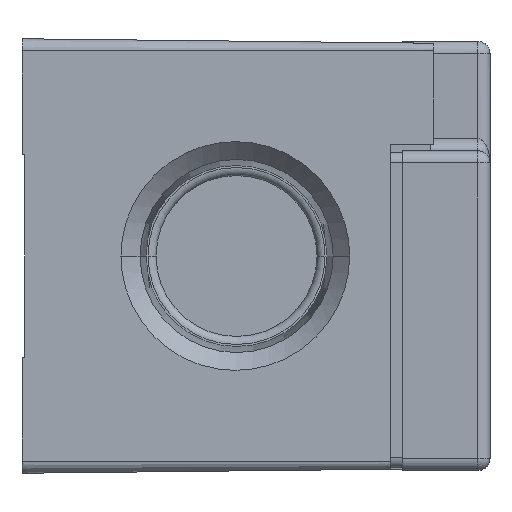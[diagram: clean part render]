
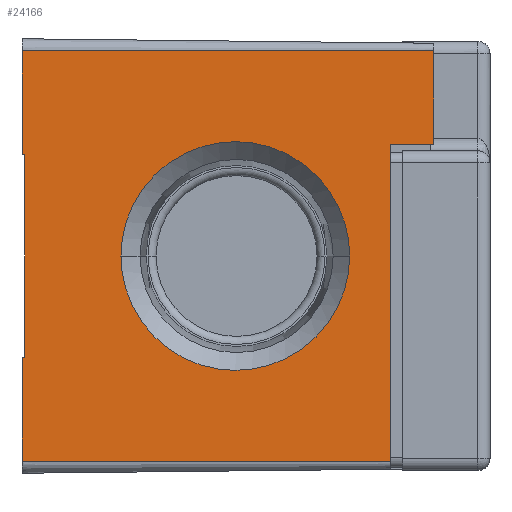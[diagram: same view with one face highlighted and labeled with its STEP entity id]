
A CAD part, front view. The second image highlights one B-rep face of the part: STEP entity #24166.
In plain terms, the highlighted planar face has unit normal (0.011, -1, 0).
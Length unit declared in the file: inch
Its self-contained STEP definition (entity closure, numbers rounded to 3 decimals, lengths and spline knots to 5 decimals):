
#19137=DIRECTION('',(0.,0.,1.));
#19138=VECTOR('',#19137,1.182);
#19139=CARTESIAN_POINT('',(0.53,-3.18912,-0.765));
#19140=LINE('',#19139,#19138);
#19537=DIRECTION('',(0.,0.,1.));
#19538=VECTOR('',#19537,0.756);
#19539=CARTESIAN_POINT('',(-0.835,-3.20389,-0.378));
#19540=LINE('',#19539,#19538);
#19541=DIRECTION('',(1.,0.011,0.));
#19542=VECTOR('',#19541,0.01);
#19543=CARTESIAN_POINT('',(-0.845,-3.204,0.378));
#19544=LINE('',#19543,#19542);
#19545=DIRECTION('',(0.,0.,1.));
#19546=VECTOR('',#19545,0.387);
#19547=CARTESIAN_POINT('',(-0.845,-3.204,0.378));
#19548=LINE('',#19547,#19546);
#19549=DIRECTION('',(0.,0.,1.));
#19550=VECTOR('',#19549,0.348);
#19551=CARTESIAN_POINT('',(0.69,-3.18739,0.417));
#19552=LINE('',#19551,#19550);
#19553=DIRECTION('',(-1.,-0.011,0.));
#19554=VECTOR('',#19553,0.16001);
#19555=CARTESIAN_POINT('',(0.69,-3.18739,0.417));
#19556=LINE('',#19555,#19554);
#19557=DIRECTION('',(0.,0.,1.));
#19558=VECTOR('',#19557,0.387);
#19559=CARTESIAN_POINT('',(-0.845,-3.204,-0.765));
#19560=LINE('',#19559,#19558);
#19561=DIRECTION('',(1.,0.011,0.));
#19562=VECTOR('',#19561,0.01);
#19563=CARTESIAN_POINT('',(-0.845,-3.204,-0.378));
#19564=LINE('',#19563,#19562);
#19565=CARTESIAN_POINT('',(0.37678,-3.19078,0.));
#19566=CARTESIAN_POINT('',(0.37678,-3.19078,
-0.02512));
#19567=CARTESIAN_POINT('',(0.37232,-3.19083,
-0.07725));
#19568=CARTESIAN_POINT('',(0.34969,-3.19107,
-0.15743));
#19569=CARTESIAN_POINT('',(0.30997,-3.1915,
-0.23469));
#19570=CARTESIAN_POINT('',(0.25407,-3.19211,
-0.30367));
#19571=CARTESIAN_POINT('',(0.19659,-3.19273,
-0.35024));
#19572=CARTESIAN_POINT('',(0.14646,-3.19327,
-0.37943));
#19573=CARTESIAN_POINT('',(0.10746,-3.19369,
-0.39714));
#19574=CARTESIAN_POINT('',(0.06773,-3.19412,
-0.4106));
#19575=CARTESIAN_POINT('',(0.03453,-3.19448,
-0.41836));
#19576=CARTESIAN_POINT('',(0.00822,-3.19477,
-0.42258));
#19577=CARTESIAN_POINT('',(-0.01134,-3.19498,
-0.4248));
#19578=CARTESIAN_POINT('',(-0.02743,-3.19515,
-0.42587));
#19579=CARTESIAN_POINT('',(-0.04017,-3.19529,
-0.4263));
#19580=CARTESIAN_POINT('',(-0.04961,-3.19539,
-0.4264));
#19581=CARTESIAN_POINT('',(-0.05906,-3.19549,
-0.4263));
#19582=CARTESIAN_POINT('',(-0.07179,-3.19563,
-0.42587));
#19583=CARTESIAN_POINT('',(-0.08789,-3.19581,
-0.4248));
#19584=CARTESIAN_POINT('',(-0.10744,-3.19602,
-0.42258));
#19585=CARTESIAN_POINT('',(-0.13376,-3.1963,
-0.41836));
#19586=CARTESIAN_POINT('',(-0.16696,-3.19666,
-0.4106));
#19587=CARTESIAN_POINT('',(-0.20669,-3.19709,
-0.39714));
#19588=CARTESIAN_POINT('',(-0.24569,-3.19751,
-0.37943));
#19589=CARTESIAN_POINT('',(-0.29582,-3.19806,
-0.35024));
#19590=CARTESIAN_POINT('',(-0.3533,-3.19868,
-0.30367));
#19591=CARTESIAN_POINT('',(-0.4092,-3.19928,
-0.23469));
#19592=CARTESIAN_POINT('',(-0.44892,-3.19971,
-0.15743));
#19593=CARTESIAN_POINT('',(-0.47154,-3.19996,
-0.07725));
#19594=CARTESIAN_POINT('',(-0.47601,-3.20001,
-0.02512));
#19595=CARTESIAN_POINT('',(-0.47601,-3.20001,0.));
#19597=CARTESIAN_POINT('',(-0.47601,-3.20001,0.));
#19598=CARTESIAN_POINT('',(-0.47601,-3.20001,
0.02512));
#19599=CARTESIAN_POINT('',(-0.47154,-3.19996,
0.07725));
#19600=CARTESIAN_POINT('',(-0.44892,-3.19971,
0.15743));
#19601=CARTESIAN_POINT('',(-0.4092,-3.19928,
0.23469));
#19602=CARTESIAN_POINT('',(-0.3533,-3.19868,
0.30367));
#19603=CARTESIAN_POINT('',(-0.29582,-3.19806,
0.35024));
#19604=CARTESIAN_POINT('',(-0.24569,-3.19751,
0.37943));
#19605=CARTESIAN_POINT('',(-0.20669,-3.19709,
0.39714));
#19606=CARTESIAN_POINT('',(-0.16696,-3.19666,
0.4106));
#19607=CARTESIAN_POINT('',(-0.13376,-3.1963,
0.41836));
#19608=CARTESIAN_POINT('',(-0.10744,-3.19602,
0.42258));
#19609=CARTESIAN_POINT('',(-0.08789,-3.19581,
0.4248));
#19610=CARTESIAN_POINT('',(-0.07179,-3.19563,
0.42587));
#19611=CARTESIAN_POINT('',(-0.05906,-3.19549,
0.4263));
#19612=CARTESIAN_POINT('',(-0.04961,-3.19539,
0.4264));
#19613=CARTESIAN_POINT('',(-0.04017,-3.19529,
0.4263));
#19614=CARTESIAN_POINT('',(-0.02743,-3.19515,
0.42587));
#19615=CARTESIAN_POINT('',(-0.01134,-3.19498,
0.4248));
#19616=CARTESIAN_POINT('',(0.00822,-3.19477,
0.42258));
#19617=CARTESIAN_POINT('',(0.03453,-3.19448,
0.41836));
#19618=CARTESIAN_POINT('',(0.06773,-3.19412,
0.4106));
#19619=CARTESIAN_POINT('',(0.10746,-3.19369,
0.39714));
#19620=CARTESIAN_POINT('',(0.14646,-3.19327,
0.37943));
#19621=CARTESIAN_POINT('',(0.19659,-3.19273,
0.35024));
#19622=CARTESIAN_POINT('',(0.25407,-3.19211,
0.30367));
#19623=CARTESIAN_POINT('',(0.30997,-3.1915,
0.23469));
#19624=CARTESIAN_POINT('',(0.34969,-3.19107,
0.15743));
#19625=CARTESIAN_POINT('',(0.37232,-3.19083,
0.07725));
#19626=CARTESIAN_POINT('',(0.37678,-3.19078,
0.02512));
#19627=CARTESIAN_POINT('',(0.37678,-3.19078,0.));
#19848=DIRECTION('',(1.,0.011,0.));
#19849=VECTOR('',#19848,1.53509);
#19850=CARTESIAN_POINT('',(-0.845,-3.204,0.765));
#19851=LINE('',#19850,#19849);
#20274=DIRECTION('',(1.,0.011,0.));
#20275=VECTOR('',#20274,1.37508);
#20276=CARTESIAN_POINT('',(-0.845,-3.204,-0.765));
#20277=LINE('',#20276,#20275);
#21810=CARTESIAN_POINT('',(0.69,-3.18739,0.417));
#21811=CARTESIAN_POINT('',(0.53,-3.18912,0.417));
#21812=VERTEX_POINT('',#21810);
#21813=VERTEX_POINT('',#21811);
#21818=CARTESIAN_POINT('',(-0.845,-3.204,0.765));
#21819=CARTESIAN_POINT('',(0.69,-3.18739,0.765));
#21820=VERTEX_POINT('',#21818);
#21821=VERTEX_POINT('',#21819);
#21826=CARTESIAN_POINT('',(-0.845,-3.204,-0.765));
#21827=CARTESIAN_POINT('',(0.53,-3.18912,-0.765));
#21828=VERTEX_POINT('',#21826);
#21829=VERTEX_POINT('',#21827);
#21846=CARTESIAN_POINT('',(-0.835,-3.20389,-0.378));
#21847=CARTESIAN_POINT('',(-0.835,-3.20389,0.378));
#21848=VERTEX_POINT('',#21846);
#21849=VERTEX_POINT('',#21847);
#21850=CARTESIAN_POINT('',(-0.845,-3.204,-0.378));
#21851=VERTEX_POINT('',#21850);
#21852=CARTESIAN_POINT('',(-0.845,-3.204,0.378));
#21853=VERTEX_POINT('',#21852);
#21854=VERTEX_POINT('',#19565);
#21855=VERTEX_POINT('',#19595);
#24138=CARTESIAN_POINT('',(-0.845,-3.204,-1.81479));
#24139=DIRECTION('',(0.011,-1.,0.));
#24140=DIRECTION('',(0.,0.,1.));
#24141=AXIS2_PLACEMENT_3D('',#24138,#24139,#24140);
#24142=PLANE('',#24141);
#24143=ORIENTED_EDGE('',*,*,#24040,.T.);
#24145=ORIENTED_EDGE('',*,*,#24144,.F.);
#24147=ORIENTED_EDGE('',*,*,#24146,.T.);
#24149=ORIENTED_EDGE('',*,*,#24148,.T.);
#24151=ORIENTED_EDGE('',*,*,#24150,.F.);
#24152=ORIENTED_EDGE('',*,*,#23564,.T.);
#24153=ORIENTED_EDGE('',*,*,#23618,.F.);
#24155=ORIENTED_EDGE('',*,*,#24154,.F.);
#24156=ORIENTED_EDGE('',*,*,#24111,.T.);
#24157=ORIENTED_EDGE('',*,*,#24133,.T.);
#24158=EDGE_LOOP('',(#24143,#24145,#24147,#24149,#24151,#24152,#24153,#24155,
#24156,#24157));
#24159=FACE_OUTER_BOUND('',#24158,.F.);
#24161=ORIENTED_EDGE('',*,*,#24160,.F.);
#24163=ORIENTED_EDGE('',*,*,#24162,.F.);
#24164=EDGE_LOOP('',(#24161,#24163));
#24165=FACE_BOUND('',#24164,.F.);
#24166=ADVANCED_FACE('',(#24159,#24165),#24142,.T.);
#19596=B_SPLINE_CURVE_WITH_KNOTS('',3,(#19565,#19566,#19567,#19568,#19569,
#19570,#19571,#19572,#19573,#19574,#19575,#19576,#19577,#19578,#19579,#19580,
#19581,#19582,#19583,#19584,#19585,#19586,#19587,#19588,#19589,#19590,#19591,
#19592,#19593,#19594,#19595),.UNSPECIFIED.,.F.,.F.,(4,1,1,1,1,1,1,1,1,1,1,1,1,1,
1,1,1,1,1,1,1,1,1,1,1,1,1,1,4),(0.,0.0625,0.125,0.1875,0.25,0.3125,
0.34375,0.375,0.40625,0.4375,0.45313,0.46875,0.48438,
0.49219,0.5,0.50781,0.51563,0.53125,0.54688,0.5625,
0.59375,0.625,0.65625,0.6875,0.75,0.8125,0.875,0.9375,1.),
.UNSPECIFIED.);
#19628=B_SPLINE_CURVE_WITH_KNOTS('',3,(#19597,#19598,#19599,#19600,#19601,
#19602,#19603,#19604,#19605,#19606,#19607,#19608,#19609,#19610,#19611,#19612,
#19613,#19614,#19615,#19616,#19617,#19618,#19619,#19620,#19621,#19622,#19623,
#19624,#19625,#19626,#19627),.UNSPECIFIED.,.F.,.F.,(4,1,1,1,1,1,1,1,1,1,1,1,1,1,
1,1,1,1,1,1,1,1,1,1,1,1,1,1,4),(0.,0.0625,0.125,0.1875,0.25,0.3125,
0.34375,0.375,0.40625,0.4375,0.45313,0.46875,0.48438,
0.49219,0.5,0.50781,0.51563,0.53125,0.54688,0.5625,
0.59375,0.625,0.65625,0.6875,0.75,0.8125,0.875,0.9375,1.),
.UNSPECIFIED.);
#23564=EDGE_CURVE('',#21812,#21813,#19556,.T.);
#23618=EDGE_CURVE('',#21829,#21813,#19140,.T.);
#24040=EDGE_CURVE('',#21848,#21849,#19540,.T.);
#24111=EDGE_CURVE('',#21828,#21851,#19560,.T.);
#24133=EDGE_CURVE('',#21851,#21848,#19564,.T.);
#24144=EDGE_CURVE('',#21853,#21849,#19544,.T.);
#24146=EDGE_CURVE('',#21853,#21820,#19548,.T.);
#24148=EDGE_CURVE('',#21820,#21821,#19851,.T.);
#24150=EDGE_CURVE('',#21812,#21821,#19552,.T.);
#24154=EDGE_CURVE('',#21828,#21829,#20277,.T.);
#24160=EDGE_CURVE('',#21854,#21855,#19596,.T.);
#24162=EDGE_CURVE('',#21855,#21854,#19628,.T.);
